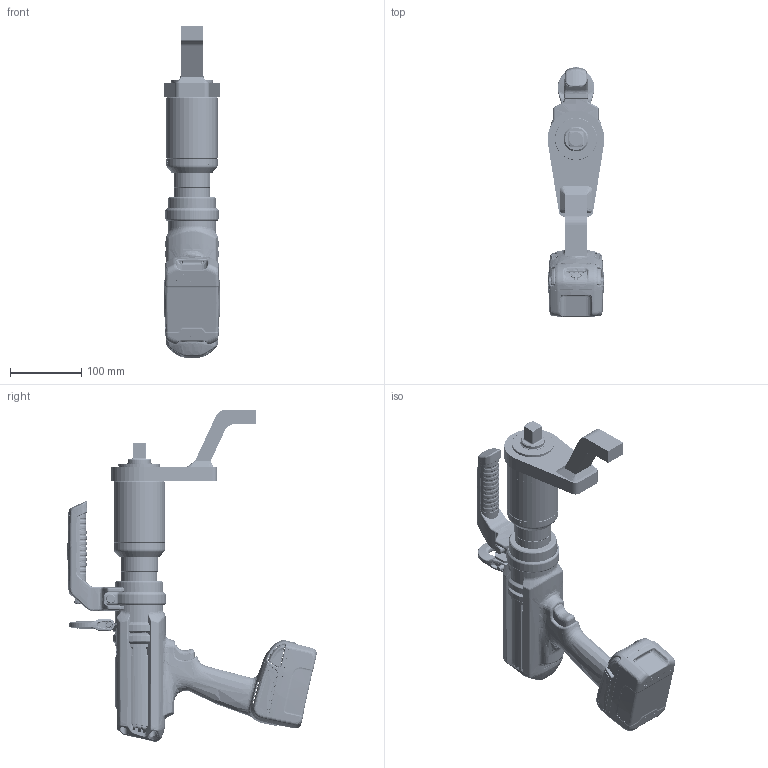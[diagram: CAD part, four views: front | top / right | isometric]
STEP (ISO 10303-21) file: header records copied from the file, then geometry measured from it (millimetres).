
FILE_DESCRIPTION((''),'2;1');
FILE_NAME('TE-VP2-SHELL_ASM','2020-12-01T13:47:37',('rryoung'),(''),'CREO PARAMETRIC BY PTC INC, 2019164','CREO PARAMETRIC BY PTC INC, 2019164','');
FILE_SCHEMA(('CONFIG_CONTROL_DESIGN'));
Products named in the file (8): TE-VP2-SHELLM01; TE-VP2-SHELLM02; TE-VP2-SHELLM03; TE-VP2-SHELLM04; TE-VP2-SHELLM06; TE-VP2-SHELLM14; TE-VP2-SHELLM11; TE-VP2-SHELL_ASM
Assembly tree (7 placements, depth 2):
  TE-VP2-SHELL_ASM
    TE-VP2-SHELLM01
    TE-VP2-SHELLM02
    TE-VP2-SHELLM03
    TE-VP2-SHELLM04
    TE-VP2-SHELLM06
    TE-VP2-SHELLM14
    TE-VP2-SHELLM11
Bounding box: 79.99 x 350.8 x 466.93 mm (x, y, z)
Surface area: 487602.6 mm2 (no closed solid volume)
Topology: 0 solids, 62 shells, 11816 faces, 28344 edges, 16580 vertices
Faces by surface type: bspline 6064, cylinder 2420, plane 1631, torus 672, cone 381, extrusion 351, sphere 288, revolution 9
Entity records: 633419 total; most frequent: CARTESIAN_POINT 405887, ORIENTED_EDGE 55449, DIRECTION 34105, EDGE_CURVE 28189, VERTEX_POINT 16580, B_SPLINE_CURVE_WITH_KNOTS 13230, AXIS2_PLACEMENT_3D 13019, EDGE_LOOP 12014
